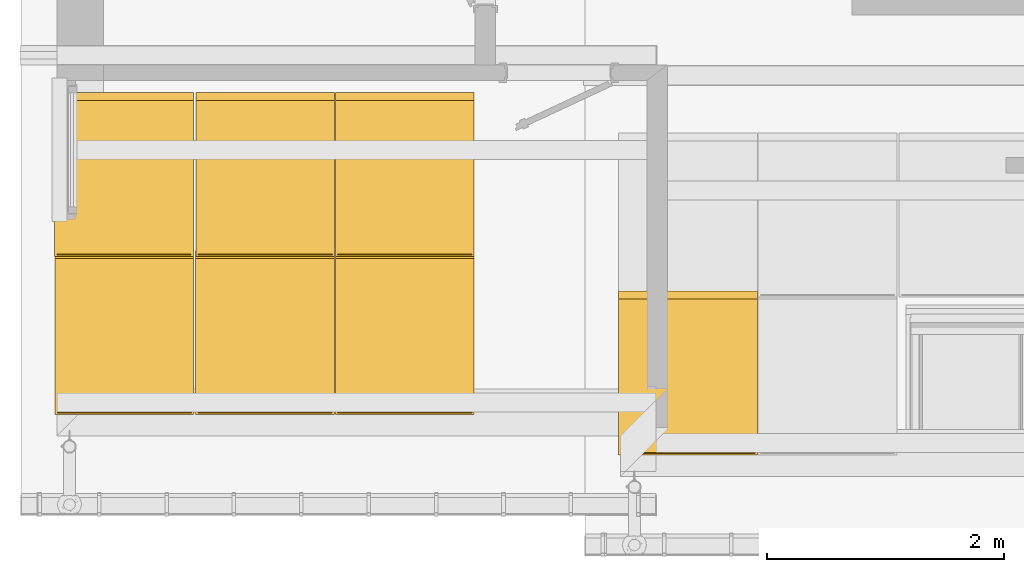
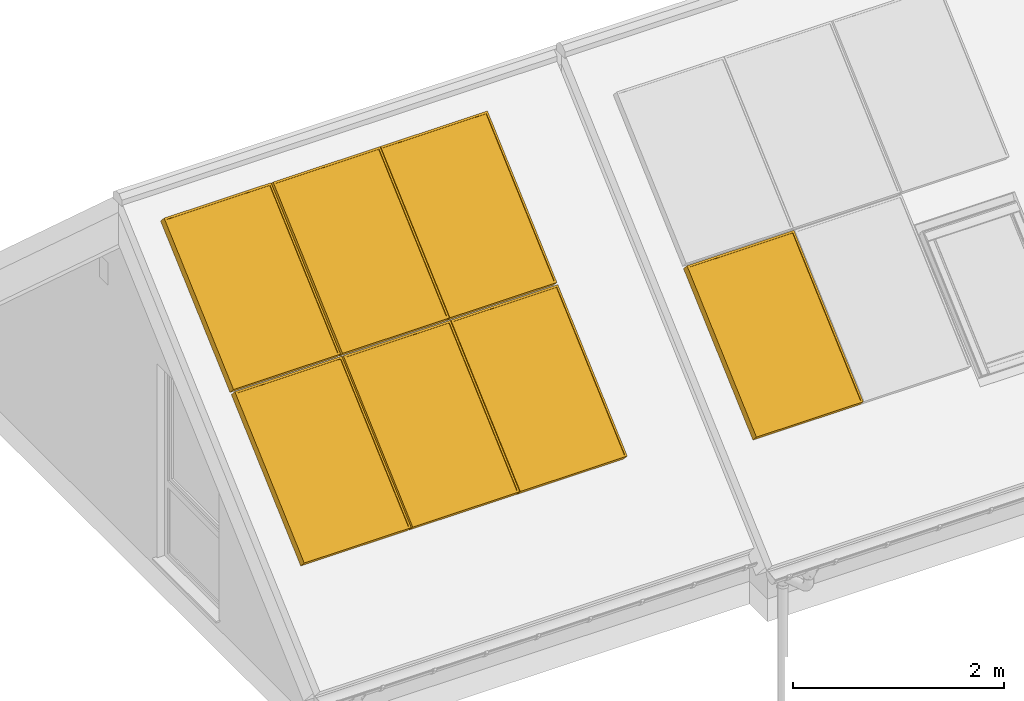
# One storey, part 13 of 43: 7 windows.
"""IFC2X3 building model written with IfcOpenShell, lengths in millimetres."""

import ifcopenshell
import ifcopenshell.guid

model = None  # the IFC model being written
_history = None  # IfcOwnerHistory: only IFC2X3 demands one
_inside = {}  # id of a spatial element -> (the spatial element, [elements in it])
_under = {}  # id of a project, library or spatial element -> (it, [spatial elements below it])
_declared = {}  # id of a project -> (the project, [libraries it declares])
_typed = {}  # id of a type object -> (the type object, [elements of that type])
_made_of = {}  # id of a material, layer set ... -> (it, [elements and type objects made of it])


def new_model(schema):
    """Start an empty IFC model of exactly this schema.

    Asked for "IFC4X3", IfcOpenShell would pick the latest addendum, in which some entities
    have other attributes; the version numbers below select the first issue.
    IFC2X3 requires an IfcOwnerHistory on every rooted entity: one is made here for all.
    """
    global model, _history
    if schema == "IFC4X3":
        model = ifcopenshell.file(schema_version=(4, 3, 0, 0))
    else:
        model = ifcopenshell.file(schema=schema)
    _inside.clear()
    _under.clear()
    _declared.clear()
    _typed.clear()
    _made_of.clear()
    _history = None
    if model.schema == "IFC2X3":
        org = make("IfcOrganization", Name="unknown")
        user = make(
            "IfcPersonAndOrganization",
            ThePerson=make("IfcPerson", FamilyName="unknown"),
            TheOrganization=org,
        )
        app = make(
            "IfcApplication",
            ApplicationDeveloper=org,
            Version="unknown",
            ApplicationFullName="unknown",
            ApplicationIdentifier="unknown",
        )
        _history = make(
            "IfcOwnerHistory",
            OwningUser=user,
            OwningApplication=app,
            ChangeAction="ADDED",
            CreationDate=0,
        )
    return model


def make(cls, **values):
    """One entity of the class cls with the attributes given. An attribute that is None is left unset."""
    return model.create_entity(
        cls, **{name: value for name, value in values.items() if value is not None}
    )


def rooted(cls, **values):
    """An entity with a GlobalId (a new one), such as an element, a storey or a relation."""
    return make(cls, GlobalId=ifcopenshell.guid.new(), OwnerHistory=_history, **values)


def si_unit(unit_type, name, prefix=None):
    """IfcSIUnit, for example si_unit("LENGTHUNIT", "METRE", prefix="MILLI")."""
    return make("IfcSIUnit", UnitType=unit_type, Prefix=prefix, Name=name)


def assignment(units):
    """IfcUnitAssignment: the units of a project."""
    return None if units is None else make("IfcUnitAssignment", Units=units)


def point(xyz):
    """IfcCartesianPoint."""
    return None if xyz is None else make("IfcCartesianPoint", Coordinates=xyz)


def direction(xyz):
    """IfcDirection."""
    return None if xyz is None else make("IfcDirection", DirectionRatios=xyz)


def frame(location, z_axis=None, x_axis=None):
    """IfcAxis2Placement3D, a coordinate frame: its origin and axes. An axis left out is left unset."""
    return make(
        "IfcAxis2Placement3D",
        Location=point(location),
        Axis=direction(z_axis),
        RefDirection=direction(x_axis),
    )


def origin_with_axes():
    """The frame at (0, 0, 0) with the z axis (0, 0, 1) and the x axis (1, 0, 0) written out."""
    return frame((0.0, 0.0, 0.0), z_axis=(0.0, 0.0, 1.0), x_axis=(1.0, 0.0, 0.0))


def place(relative_to, where):
    """IfcLocalPlacement: puts the frame where relative to a parent placement (None: the world)."""
    return make(
        "IfcLocalPlacement", PlacementRelTo=relative_to, RelativePlacement=where
    )


def context(
    kind, dimensions, precision=None, world=None, true_north=None, identifier=None
):
    """IfcGeometricRepresentationContext, for example the 3D "Model" context."""
    return make(
        "IfcGeometricRepresentationContext",
        ContextIdentifier=identifier,
        ContextType=kind,
        CoordinateSpaceDimension=dimensions,
        Precision=precision,
        WorldCoordinateSystem=world,
        TrueNorth=true_north,
    )


def project(units=None, contexts=None):
    """IfcProject with its units and contexts."""
    return rooted(
        "IfcProject",
        Name="project",
        RepresentationContexts=contexts,
        UnitsInContext=assignment(units),
    )


def spatial(cls, under=None, at=None, **own):
    """A site, building, storey or space (cls), placed at a placement, below another one or the project."""
    s = rooted(cls, ObjectPlacement=at, **own)
    if under is not None:
        _under.setdefault(under.id(), (under, []))[1].append(s)
    return s


def faces_of(points, faces, orient=None, outer=None):
    """IfcFace entities. A face is a list of loops; a loop is a list of indices into points, from 0.

    orient and outer hold one flag for each loop. By default every Orientation is true, the
    first loop of a face is its IfcFaceOuterBound and the others are IfcFaceBound.
    """
    made = []
    for i, loops in enumerate(faces):
        bounds = []
        for j, loop in enumerate(loops):
            is_outer = j == 0 if outer is None else outer[i][j]
            bounds.append(
                make(
                    "IfcFaceOuterBound" if is_outer else "IfcFaceBound",
                    Bound=make("IfcPolyLoop", Polygon=[points[k] for k in loop]),
                    Orientation=True if orient is None else orient[i][j],
                )
            )
        made.append(make("IfcFace", Bounds=bounds))
    return made


def faceted_brep(points, faces, orient=None, outer=None, voids=None):
    """IfcFacetedBrep: a solid bounded by flat faces; with voids (closed shells), ...WithVoids."""
    shared = [point(p) for p in points]
    hull = make("IfcClosedShell", CfsFaces=faces_of(shared, faces, orient, outer))
    if voids is None:
        return make("IfcFacetedBrep", Outer=hull)
    return make(
        "IfcFacetedBrepWithVoids",
        Outer=hull,
        Voids=[
            make(cls, CfsFaces=faces_of(shared, fs, o, b)) for cls, fs, o, b in voids
        ],
    )


def shape(context_of_items, identifier, shape_type, items):
    """IfcShapeRepresentation: the items that make up one representation, for example the "Body"."""
    return make(
        "IfcShapeRepresentation",
        ContextOfItems=context_of_items,
        RepresentationIdentifier=identifier,
        RepresentationType=shape_type,
        Items=items,
    )


def made_of(thing, what):
    """Note that an element or type object is made of a material, layer set ...; save() writes the relation."""
    if what is not None:
        _made_of.setdefault(what.id(), (what, []))[1].append(thing)
    return thing


def element(
    cls,
    number,
    at=None,
    inside=None,
    cuts=None,
    type_object=None,
    material=None,
    context=None,
    identifier="Body",
    shape_type=None,
    held_by="IfcProductDefinitionShape",
    body=None,
    shapes=None,
    **own,
):
    """One element of the class cls, such as IfcWall. Its Tag is "e" and its number.

    at: its placement. inside: the storey or other place that contains it. cuts: it is an
    opening in that element (IfcRelVoidsElement). A single representation is given by context,
    identifier, shape_type and body (its items); several are given by shapes. held_by: the class
    of the entity that holds the representations. save() writes the other relations.
    """
    e = rooted(cls, Tag="e%d" % number, ObjectPlacement=at, **own)
    if body is not None:
        shapes = [shape(context, identifier, shape_type, body)]
    if shapes is not None:
        e.Representation = make(held_by, Representations=shapes)
    if inside is not None:
        _inside.setdefault(inside.id(), (inside, []))[1].append(e)
    if cuts is not None:
        rooted(
            "IfcRelVoidsElement", RelatingBuildingElement=cuts, RelatedOpeningElement=e
        )
    if type_object is not None:
        _typed.setdefault(type_object.id(), (type_object, []))[1].append(e)
    return made_of(e, material)


def aggregate(whole, parts):
    """IfcRelAggregates: a whole, such as a stair, and the parts it consists of."""
    return rooted("IfcRelAggregates", RelatingObject=whole, RelatedObjects=parts)


def save(model, path):
    """Write the relations noted so far, then the file.

    IfcRelAggregates (storeys below a building ...), IfcRelContainedInSpatialStructure (elements
    in a storey), IfcRelDefinesByType, IfcRelAssociatesMaterial and IfcRelDeclares: one each for
    every whole, place, type object, material and project.
    """
    for whole, parts in _under.values():
        aggregate(whole, parts)
    for where, things in _inside.values():
        rooted(
            "IfcRelContainedInSpatialStructure",
            RelatedElements=things,
            RelatingStructure=where,
        )
    for kind, things in _typed.values():
        rooted("IfcRelDefinesByType", RelatedObjects=things, RelatingType=kind)
    for what, things in _made_of.values():
        rooted("IfcRelAssociatesMaterial", RelatedObjects=things, RelatingMaterial=what)
    for by, libraries in _declared.values():
        rooted("IfcRelDeclares", RelatingContext=by, RelatedDefinitions=libraries)
    model.write(path)


model = new_model("IFC2X3")

# Units and contexts
model_context = context("Model", 3, world=origin_with_axes())
ifc_project = project(units=[si_unit("LENGTHUNIT", "METRE", prefix="MILLI")], contexts=[model_context])

# Site, building, storey
site_placement = place(None, origin_with_axes())
site = spatial("IfcSite", under=ifc_project, at=site_placement, Name="Site", CompositionType="ELEMENT")
building_placement = place(site_placement, origin_with_axes())
building = spatial("IfcBuilding", under=site, at=building_placement, Name="?", CompositionType="ELEMENT")
storey_placement = place(building_placement, frame((0.0, 0.0, 5938.0), z_axis=(0.0, 0.0, 1.0), x_axis=(1.0, 0.0, 0.0)))
storey = spatial("IfcBuildingStorey", under=building, at=storey_placement, Name="Dachgeschoß", CompositionType="ELEMENT", Elevation=5938.0)

# Windows
placement_1 = place(None, origin_with_axes())
placement_2 = place(placement_1, frame((4750.0, -6756.0, 6767.55029296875), z_axis=(0.0, -0.669130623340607, 0.743144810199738), x_axis=(1.00000000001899, 0.0, 0.0)))
placement_3 = place(placement_2, frame((2.99999999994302, 2467.22719145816, 430.000228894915), z_axis=(0.0, -1.0000000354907, -1.28473057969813e-07), x_axis=(1.00000000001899, 0.0, 0.0)))
window_1_placement = place(placement_3, origin_with_axes())
element("IfcWindow", 1, at=window_1_placement, inside=storey, Name="SO", OverallHeight=1730.0, OverallWidth=1130.0, context=model_context, shape_type="Brep", body=[
    faceted_brep([(1150.0, 49.9998488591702, -65.0186203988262), (1130.0, 49.9996336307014, -45.0185635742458), (-9.09494701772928e-13, 49.9996336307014, -45.0185635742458), (-20.0000000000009, 49.9998488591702, -65.0186203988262), (1150.0, 149.999843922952, -65.0185841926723), (1150.0, 49.9998466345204, -65.0186222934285), (-20.0000000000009, 49.9998466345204, -65.0186222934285), (-20.0000000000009, 149.999843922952, -65.0185841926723), (1130.0, 149.999628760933, -45.0185277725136), (1150.0, 149.999843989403, -65.0185845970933), (-20.0000000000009, 149.999843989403, -65.0185845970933), (0.000488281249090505, 149.999628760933, -45.0185277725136), (1130.0, 49.9996336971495, -45.0185639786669), (1130.0, 149.999630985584, -45.0185258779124), (0.00048828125, 149.999630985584, -45.0185258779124), (0.0, 49.9996336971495, -45.0185639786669), (-20.0, 49.9998488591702, -65.0186203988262), (-4.23933705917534e-08, 49.9983102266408, -45.0185638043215), (6.0886119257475e-08, 50.0002110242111, 1684.97990325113), (-20.0000001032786, 50.0017936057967, 1704.97977768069), (-20.0, 149.999843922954, -65.0185841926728), (-20.0, 49.9998488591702, -65.0186203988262), (-20.0, 50.0031079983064, 1704.97976236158), (-20.0, 150.00310306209, 1704.97979856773), (0.000488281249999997, 149.999628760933, -45.0185277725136), (-19.9999999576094, 150.001167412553, -65.0185843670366), (-20.0000000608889, 150.003112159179, 1704.97981371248), (1.03276761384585e-07, 150.001529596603, 1684.97993928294), (0.0, 49.9996336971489, -45.0185639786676), (0.000244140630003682, 149.999628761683, -45.0185277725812), (-1.26419763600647e-10, 150.000197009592, 1684.97992431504), (-0.000244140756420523, 50.0002019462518, 1684.97988810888), (-19.9999999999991, 50.0031079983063, 1704.97976236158), (2.10002326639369e-09, 50.001735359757, 1684.97988763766), (1130.00000000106, 50.0002018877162, 1684.97988774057), (1150.00000000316, 50.0015202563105, 1704.97994442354), (-20.0, 150.003103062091, 1704.97979856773), (-20.0, 50.0031057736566, 1704.97976046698), (1150.00000000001, 49.9999845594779, 1704.97994263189), (1150.00000000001, 149.999981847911, 1704.97998073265), (0.0, 150.000197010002, 1684.97992431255), (-20.0000000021, 150.001569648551, 1704.97979903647), (1150.00000000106, 149.999981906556, 1704.97998109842), (1129.99999999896, 149.998663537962, 1684.97992441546), (0.0, 50.0002019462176, 1684.97988810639), (0.0, 150.000199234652, 1684.97992620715), (1130.0, 150.000199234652, 1684.97992620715), (1130.0, 50.0002019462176, 1684.97988810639), (1150.0, 49.9999867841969, 1704.97994452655), (1130.0, 49.9999825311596, 1684.97988801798), (1130.0, 49.999614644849, -45.0185717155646), (1150.0, 49.9996103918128, -65.0186282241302), (1150.0, 149.999981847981, 1704.9799807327), (1150.0, 49.9999867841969, 1704.97994452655), (1150.0, 49.9998488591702, -65.0186203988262), (1150.0, 149.999843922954, -65.0185841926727), (1130.0, 150.000197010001, 1684.97992431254), (1150.0, 150.000201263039, 1704.97998082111), (1150.0, 149.999824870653, -65.0185919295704), (1130.0, 149.999829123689, -45.018535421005), (1130.0, 50.0002019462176, 1684.97988810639), (1130.0, 150.000197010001, 1684.97992431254), (1130.0, 149.999628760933, -45.0185277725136), (1130.0, 49.9996336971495, -45.0185639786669), (0.0, 139.999418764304, -45.0184732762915), (0.0, 139.999932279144, 1684.98137326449), (1130.0, 139.999932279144, 1684.98137326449), (1130.0, 139.999418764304, -45.0184732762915), (0.0, 129.999208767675, -45.0184187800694), (1130.0, 129.999208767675, -45.0184187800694), (1130.0, 129.999722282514, 1684.98142776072), (0.0, 129.999722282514, 1684.98142776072), (0.0, 129.999208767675, -45.0184187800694), (0.0, 129.999722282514, 1684.98142776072), (1130.0, 129.999722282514, 1684.98142776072), (1130.0, 129.999208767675, -45.0184187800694)], [[[0, 1, 2, 3]], [[4, 5, 6, 7]], [[8, 9, 10, 11]], [[12, 13, 14, 15]], [[16, 17, 18, 19]], [[20, 21, 22, 23]], [[24, 25, 26, 27]], [[28, 29, 30, 31]], [[32, 33, 34, 35]], [[36, 37, 38, 39]], [[40, 41, 42, 43]], [[44, 45, 46, 47]], [[48, 49, 50, 51]], [[52, 53, 54, 55]], [[56, 57, 58, 59]], [[60, 61, 62, 63]], [[64, 65, 66, 67]], [[68, 69, 70, 71]], [[72, 73, 74, 75]]]),
])
placement_4 = place(None, origin_with_axes())
placement_5 = place(placement_4, frame((0.0, -6415.0, 6767.55029296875), z_axis=(0.0, -0.669130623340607, 0.743144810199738), x_axis=(1.00000000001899, 0.0, 0.0)))
placement_6 = place(placement_5, frame((0.0, 4260.59948074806, 429.999801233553), z_axis=(0.0, -0.9999999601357, 4.42948824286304e-08), x_axis=(1.00000000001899, 0.0, 0.0)))
window_2_placement = place(placement_6, origin_with_axes())
element("IfcWindow", 2, at=window_2_placement, inside=storey, Name="SO", OverallHeight=1730.0, OverallWidth=1130.0, context=model_context, shape_type="Brep", body=[
    faceted_brep([(1150.0, 50.0003848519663, -65.0253397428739), (1130.0, 50.0001661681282, -45.0252814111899), (0.0, 50.0001661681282, -45.0252814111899), (-20.0, 50.0003848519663, -65.0253397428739), (1150.0, 150.000379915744, -65.0253035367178), (1150.0, 50.0003826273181, -65.025341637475), (-19.9999999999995, 50.0003826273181, -65.025341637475), (-19.9999999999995, 150.000379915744, -65.0253035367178), (1130.0, 150.000161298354, -45.0252456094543), (1150.0, 150.000379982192, -65.0253039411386), (-20.0, 150.000379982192, -65.0253039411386), (0.0, 150.000161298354, -45.0252456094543), (1130.0, 50.000166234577, -45.0252818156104), (1130.0, 150.000163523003, -45.0252437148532), (0.0, 150.000163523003, -45.0252437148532), (0.0, 50.000166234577, -45.0252818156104), (-20.0, 50.0003848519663, -65.0253397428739), (-5.54380683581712e-08, 49.9986579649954, -45.0252818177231), (7.586750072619e-08, 49.9999686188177, 1684.97431664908), (-20.0000001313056, 50.0017258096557, 1704.97386568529), (-20.0, 150.000379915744, -65.0253035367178), (-20.0, 50.0003848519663, -65.0253397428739), (-20.0, 50.0033020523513, 1704.9738659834), (-20.0, 150.003297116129, 1704.97390218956), (4.68878264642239e-25, 150.000161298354, -45.0252456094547), (-19.9999999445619, 150.001888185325, -65.025303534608), (-20.0000000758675, 150.003229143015, 1704.97390189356), (1.31305568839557e-07, 150.001471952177, 1684.97435285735), (0.0, 50.000166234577, -45.0252818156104), (0.0, 150.000161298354, -45.0252456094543), (0.0, 150.000031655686, 1684.97435315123), (0.0, 50.0000365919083, 1684.97431694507), (-20.0, 50.0033020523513, 1704.9738659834), (2.61598387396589e-09, 50.0017482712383, 1684.97431621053), (1130.00000000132, 50.0000365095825, 1684.97431634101), (1150.00000000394, 50.0015297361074, 1704.97437474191), (-20.0, 150.003297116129, 1704.97390218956), (-20.0, 50.0032998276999, 1704.9738640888), (1150.00000000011, 49.9998157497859, 1704.97437297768), (1150.00000000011, 149.999813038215, 1704.97441107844), (-1.76182853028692e-18, 150.000031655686, 1684.97435315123), (-20.000000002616, 150.0015854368, 1704.9739029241), (1150.00000000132, 149.999813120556, 1704.97441168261), (1129.9999999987, 149.99831989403, 1684.97435328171), (0.0, 50.0000365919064, 1684.97431694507), (0.0, 150.000033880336, 1684.97435504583), (1130.0, 150.000033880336, 1684.97435504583), (1130.0, 50.0000365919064, 1684.97431694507), (1150.0, 49.999817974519, 1704.97437487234), (1130.0, 49.9998222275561, 1684.97431712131), (1130.0, 50.0001901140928, -45.0252663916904), (1150.0, 50.0001943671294, -65.0253241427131), (1150.0, 149.999813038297, 1704.97441107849), (1150.0, 49.999817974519, 1704.97437487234), (1150.0, 50.0003848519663, -65.0253397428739), (1150.0, 150.000379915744, -65.0253035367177), (1130.0, 150.000031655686, 1684.97435315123), (1150.0, 150.000027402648, 1704.97441090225), (1150.0, 150.000403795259, -65.0252881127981), (1130.0, 150.000399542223, -45.0252303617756), (1130.0, 50.0000365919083, 1684.97431694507), (1130.0, 150.000031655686, 1684.97435315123), (1130.0, 150.000161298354, -45.0252456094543), (1130.0, 50.000166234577, -45.0252818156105), (0.0, 139.999951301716, -45.0251911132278), (-1.77126973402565e-11, 139.999874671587, 1684.97440766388), (1130.00000000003, 140.000119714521, 1684.97477052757), (1130.00000000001, 140.000196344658, -45.0250096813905), (0.0, 129.999741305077, -45.0251366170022), (1130.00000000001, 129.99998634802, -45.0249551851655), (1130.00000000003, 129.999909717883, 1684.97482502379), (-1.77126979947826e-11, 129.999664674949, 1684.97446216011), (0.0, 129.999741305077, -45.0251366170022), (-1.77126984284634e-11, 129.999664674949, 1684.97446216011), (1130.00000000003, 129.999909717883, 1684.97482502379), (1130.00000000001, 129.99998634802, -45.0249551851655)], [[[0, 1, 2, 3]], [[4, 5, 6, 7]], [[8, 9, 10, 11]], [[12, 13, 14, 15]], [[16, 17, 18, 19]], [[20, 21, 22, 23]], [[24, 25, 26, 27]], [[28, 29, 30, 31]], [[32, 33, 34, 35]], [[36, 37, 38, 39]], [[40, 41, 42, 43]], [[44, 45, 46, 47]], [[48, 49, 50, 51]], [[52, 53, 54, 55]], [[56, 57, 58, 59]], [[60, 61, 62, 63]], [[64, 65, 66, 67]], [[68, 69, 70, 71]], [[72, 73, 74, 75]]]),
])
placement_7 = place(placement_5, frame((1191.99999997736, 4260.59948074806, 429.999801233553), z_axis=(0.0, -0.9999999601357, 4.42948824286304e-08), x_axis=(1.00000000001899, 0.0, 0.0)))
window_3_placement = place(placement_7, origin_with_axes())
element("IfcWindow", 3, at=window_3_placement, inside=storey, Name="SO", OverallHeight=1730.0, OverallWidth=1130.0, context=model_context, shape_type="Brep", body=[
    faceted_brep([(1150.0, 50.0003848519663, -65.0253397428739), (1130.0, 50.0001661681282, -45.0252814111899), (0.0, 50.0001661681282, -45.0252814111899), (-20.0, 50.0003848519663, -65.0253397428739), (1150.0, 150.000379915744, -65.0253035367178), (1150.0, 50.0003826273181, -65.025341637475), (-19.9999999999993, 50.0003826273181, -65.025341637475), (-19.9999999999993, 150.000379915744, -65.0253035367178), (1130.0, 150.000161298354, -45.0252456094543), (1150.0, 150.000379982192, -65.0253039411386), (-20.0, 150.000379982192, -65.0253039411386), (0.0, 150.000161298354, -45.0252456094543), (1130.0, 50.000166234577, -45.0252818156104), (1130.0, 150.000163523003, -45.0252437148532), (0.0, 150.000163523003, -45.0252437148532), (0.0, 50.000166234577, -45.0252818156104), (-20.0, 50.0003848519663, -65.0253397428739), (-5.54380257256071e-08, 49.9986579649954, -45.0252818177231), (7.58673159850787e-08, 49.9999686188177, 1684.97431664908), (-20.0000001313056, 50.0017258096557, 1704.97386568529), (-20.0, 150.000379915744, -65.0253035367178), (-20.0, 50.0003848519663, -65.0253397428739), (-20.0, 50.0033020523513, 1704.9738659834), (-20.0, 150.003297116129, 1704.97390218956), (-2.27373675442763e-13, 150.000161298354, -45.0252456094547), (-19.9999999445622, 150.001888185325, -65.025303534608), (-20.0000000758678, 150.003229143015, 1704.97390189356), (1.31304886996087e-07, 150.001471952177, 1684.97435285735), (0.0, 50.000166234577, -45.0252818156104), (0.0, 150.000161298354, -45.0252456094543), (0.0, 150.000031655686, 1684.97435315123), (0.0, 50.0000365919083, 1684.97431694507), (-20.0, 50.0033020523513, 1704.9738659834), (2.61593413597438e-09, 50.0017482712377, 1684.97431621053), (1130.00000000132, 50.0000365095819, 1684.97431634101), (1150.00000000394, 50.0015297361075, 1704.97437474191), (-20.0000000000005, 150.003297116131, 1704.97390218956), (-20.0000000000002, 50.0032998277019, 1704.9738640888), (1150.00000000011, 49.9998157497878, 1704.97437297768), (1150.00000000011, 149.999813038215, 1704.97441107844), (0.0, 150.000031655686, 1684.97435315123), (-20.0000000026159, 150.0015854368, 1704.9739029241), (1150.00000000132, 149.999813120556, 1704.97441168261), (1129.9999999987, 149.99831989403, 1684.97435328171), (-2.27373675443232e-13, 50.0000365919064, 1684.97431694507), (-2.27373675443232e-13, 150.000033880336, 1684.97435504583), (1130.0, 150.000033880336, 1684.97435504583), (1130.0, 50.0000365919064, 1684.97431694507), (1150.0, 49.999817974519, 1704.97437487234), (1130.0, 49.9998222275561, 1684.97431712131), (1130.0, 50.0001901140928, -45.0252663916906), (1150.0, 50.0001943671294, -65.0253241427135), (1150.0, 149.999813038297, 1704.97441107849), (1150.0, 49.999817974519, 1704.97437487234), (1150.0, 50.0003848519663, -65.0253397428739), (1150.0, 150.000379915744, -65.0253035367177), (1130.0, 150.000031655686, 1684.97435315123), (1150.0, 150.000027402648, 1704.97441090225), (1150.0, 150.000403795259, -65.0252881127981), (1130.0, 150.000399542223, -45.0252303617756), (1130.0, 50.0000365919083, 1684.97431694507), (1130.0, 150.000031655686, 1684.97435315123), (1130.0, 150.000161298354, -45.0252456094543), (1130.0, 50.000166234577, -45.0252818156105), (2.27373675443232e-13, 139.999951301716, -45.0251911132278), (-1.75077731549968e-11, 139.999874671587, 1684.97440766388), (1130.00000000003, 140.000119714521, 1684.97477052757), (1130.00000000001, 140.000196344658, -45.0250096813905), (-2.27373675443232e-13, 129.999741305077, -45.0251366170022), (1130.00000000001, 129.99998634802, -45.0249551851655), (1130.00000000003, 129.999909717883, 1684.97482502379), (-1.77351466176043e-11, 129.999664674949, 1684.97446216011), (0.0, 129.999741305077, -45.0251366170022), (-1.79625202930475e-11, 129.999664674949, 1684.97446216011), (1130.00000000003, 129.999909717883, 1684.97482502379), (1130.00000000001, 129.99998634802, -45.0249551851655)], [[[0, 1, 2, 3]], [[4, 5, 6, 7]], [[8, 9, 10, 11]], [[12, 13, 14, 15]], [[16, 17, 18, 19]], [[20, 21, 22, 23]], [[24, 25, 26, 27]], [[28, 29, 30, 31]], [[32, 33, 34, 35]], [[36, 37, 38, 39]], [[40, 41, 42, 43]], [[44, 45, 46, 47]], [[48, 49, 50, 51]], [[52, 53, 54, 55]], [[56, 57, 58, 59]], [[60, 61, 62, 63]], [[64, 65, 66, 67]], [[68, 69, 70, 71]], [[72, 73, 74, 75]]]),
])
placement_8 = place(placement_5, frame((2366.99999995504, 4260.59948074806, 429.999801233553), z_axis=(0.0, -0.9999999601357, 4.42948824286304e-08), x_axis=(1.00000000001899, 0.0, 0.0)))
window_4_placement = place(placement_8, origin_with_axes())
element("IfcWindow", 4, at=window_4_placement, inside=storey, Name="SO", OverallHeight=1730.0, OverallWidth=1130.0, context=model_context, shape_type="Brep", body=[
    faceted_brep([(1150.0, 50.0003848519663, -65.0253397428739), (1130.0, 50.0001661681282, -45.0252814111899), (-4.54747350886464e-13, 50.0001661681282, -45.0252814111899), (-20.0009765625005, 50.0003848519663, -65.0253397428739), (1150.0, 150.000379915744, -65.0253035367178), (1150.0, 50.0003826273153, -65.0253416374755), (-20.0009765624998, 50.0003826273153, -65.0253416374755), (-20.0009765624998, 150.000379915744, -65.0253035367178), (1130.0, 150.000161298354, -45.0252456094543), (1150.0, 150.000379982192, -65.0253039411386), (-20.0009765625, 150.000379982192, -65.0253039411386), (0.0, 150.000161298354, -45.0252456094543), (1130.0, 50.000166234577, -45.0252818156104), (1130.0, 150.000163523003, -45.0252437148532), (4.54747350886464e-13, 150.000163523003, -45.0252437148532), (4.54747350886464e-13, 50.000166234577, -45.0252818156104), (-20.0009765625, 50.000384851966, -65.0253397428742), (-3.16649675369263e-08, 49.9990174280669, -45.0252819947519), (4.75533816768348e-08, 50.0000368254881, 1684.97430120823), (-20.0000000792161, 50.0014277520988, 1704.97450351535), (-20.0009765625, 150.000379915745, -65.025303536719), (-20.0009765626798, 50.0003848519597, -65.0253397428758), (-20.0000000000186, 50.0025763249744, 1704.97451943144), (-20.0000000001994, 150.003297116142, 1704.97390218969), (-1.73472346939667e-18, 150.000161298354, -45.0252456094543), (-20.0009765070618, 150.00188822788, -65.0253035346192), (-20.0000000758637, 150.003229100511, 1704.97390189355), (1.31306023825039e-07, 150.001471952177, 1684.97435285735), (0.0, 50.000166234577, -45.0252818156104), (0.0, 150.000161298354, -45.0252456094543), (0.0, 150.000031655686, 1684.97435315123), (0.0, 50.0000365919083, 1684.97431694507), (-19.9999999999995, 50.0025763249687, 1704.9745194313), (1.63982250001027e-09, 50.0013917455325, 1684.97431673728), (1130.00000000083, 50.0000365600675, 1684.97431681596), (1150.00000000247, 50.0011731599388, 1704.97437479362), (-19.9999999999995, 150.003297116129, 1704.97390218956), (-19.9999999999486, 50.0025737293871, 1704.97419326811), (1150.00000000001, 49.9998153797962, 1704.97437543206), (1150.00000000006, 149.999813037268, 1704.97408435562), (0.0, 150.000031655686, 1684.97435315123), (-20.0000000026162, 150.0015854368, 1704.9739029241), (1150.00000000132, 149.999813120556, 1704.97441168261), (1129.9999999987, 149.99831989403, 1684.97435328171), (-4.54747350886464e-13, 50.0000365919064, 1684.97431694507), (-4.54747350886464e-13, 150.000033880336, 1684.97435504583), (1130.0, 150.000033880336, 1684.97435504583), (1130.0, 50.0000365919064, 1684.97431694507), (1150.0, 49.999817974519, 1704.97437487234), (1130.0, 49.9998222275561, 1684.97431712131), (1130.0, 50.0001901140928, -45.0252663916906), (1150.0, 50.0001943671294, -65.0253241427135), (1150.0, 149.999813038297, 1704.97441107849), (1150.0, 49.999817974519, 1704.97437487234), (1150.0, 50.0003848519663, -65.0253397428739), (1150.0, 150.000379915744, -65.0253035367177), (1130.0, 150.000031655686, 1684.97435315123), (1150.0, 150.000027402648, 1704.97441090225), (1150.0, 150.000403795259, -65.0252881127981), (1130.0, 150.000399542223, -45.0252303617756), (1130.0, 50.0000365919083, 1684.97431694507), (1130.0, 150.000031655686, 1684.97435315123), (1130.0, 150.000161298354, -45.0252456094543), (1130.0, 50.000166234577, -45.0252818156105), (-3.38813178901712e-21, 139.999951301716, -45.0251911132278), (-1.81898941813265e-11, 139.999874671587, 1684.97440766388), (1130.00000000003, 140.000119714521, 1684.97477052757), (1130.00000000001, 140.000196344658, -45.0250096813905), (0.0, 129.999741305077, -45.0251366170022), (1130.00000000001, 129.99998634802, -45.0249551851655), (1130.00000000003, 129.999909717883, 1684.97482502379), (-1.77351466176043e-11, 129.999664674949, 1684.97446216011), (0.0, 129.999741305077, -45.0251366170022), (-1.81898939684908e-11, 129.999664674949, 1684.97446216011), (1130.00000000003, 129.999909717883, 1684.97482502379), (1130.00000000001, 129.99998634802, -45.0249551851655)], [[[0, 1, 2, 3]], [[4, 5, 6, 7]], [[8, 9, 10, 11]], [[12, 13, 14, 15]], [[16, 17, 18, 19]], [[20, 21, 22, 23]], [[24, 25, 26, 27]], [[28, 29, 30, 31]], [[32, 33, 34, 35]], [[36, 37, 38, 39]], [[40, 41, 42, 43]], [[44, 45, 46, 47]], [[48, 49, 50, 51]], [[52, 53, 54, 55]], [[56, 57, 58, 59]], [[60, 61, 62, 63]], [[64, 65, 66, 67]], [[68, 69, 70, 71]], [[72, 73, 74, 75]]]),
])
placement_9 = place(placement_5, frame((2366.99999995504, 2467.22755432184, 429.999902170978), z_axis=(0.0, -0.99999995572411, -3.98832931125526e-08), x_axis=(1.00000000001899, 0.0, 0.0)))
window_5_placement = place(placement_9, origin_with_axes())
element("IfcWindow", 5, at=window_5_placement, inside=storey, Name="SO", OverallHeight=1730.0, OverallWidth=1130.0, context=model_context, shape_type="Brep", body=[
    faceted_brep([(1150.0, 50.0001813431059, -65.0182627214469), (1130.0, 49.9999643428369, -45.0182043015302), (2.27373675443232e-13, 49.9999643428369, -45.0182043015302), (-19.9999999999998, 50.0001813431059, -65.0182627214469), (1150.0, 150.000176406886, -65.0182265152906), (1150.0, 50.0001791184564, -65.0182646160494), (-19.9999999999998, 50.0001791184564, -65.0182646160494), (-19.9999999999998, 150.000176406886, -65.0182265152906), (1130.0, 149.999959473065, -45.0181684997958), (1150.0, 150.000176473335, -65.0182269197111), (-20.0000000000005, 150.000176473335, -65.0182269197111), (-4.54747350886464e-13, 149.999959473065, -45.0181684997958), (1130.0, 49.9999644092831, -45.0182047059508), (1130.0, 149.999961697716, -45.0181666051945), (-4.54747350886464e-13, 149.999961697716, -45.0181666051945), (-4.54747350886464e-13, 49.9999644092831, -45.0182047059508), (-19.9999999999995, 50.0001813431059, -65.0182627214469), (-4.27162341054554e-08, 49.9986366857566, -45.0182039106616), (6.08865775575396e-08, 50.0000163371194, 1684.98078159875), (-20.0000001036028, 50.0015928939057, 1704.98065824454), (-20.0, 150.000176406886, -65.0182265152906), (-20.0, 50.0001813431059, -65.0182627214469), (-20.0, 50.0029208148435, 1704.98058794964), (-20.0, 150.002915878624, 1704.9806241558), (4.54747350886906e-13, 149.999959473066, -45.018168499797), (-19.9999999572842, 150.001504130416, -65.0182273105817), (-20.0000000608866, 150.002915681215, 1704.98069365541), (1.03602360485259e-07, 150.001339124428, 1684.98081700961), (0.0, 49.999964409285, -45.0182047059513), (0.0, 149.999959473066, -45.0181684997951), (0.0, 150.000011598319, 1684.98074830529), (0.0, 50.0000165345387, 1684.98071209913), (-20.0, 50.0029208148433, 1704.98058794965), (2.09911377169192e-09, 50.0015499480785, 1684.9807116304), (1130.00000000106, 50.0000164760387, 1684.98071173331), (1150.00000000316, 50.0013330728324, 1704.98077001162), (-20.0, 150.002915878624, 1704.9806241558), (-20.0, 50.0029185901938, 1704.98058605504), (1150.00000000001, 49.9997973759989, 1704.98076821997), (1150.00000000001, 149.999794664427, 1704.98080632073), (-4.54747350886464e-13, 150.000011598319, 1684.98074830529), (-20.0000000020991, 150.001382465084, 1704.98062462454), (1150.00000000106, 149.999794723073, 1704.98080668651), (1129.99999999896, 149.998478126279, 1684.9807484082), (0.0, 50.0000165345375, 1684.98071209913), (0.0, 150.000013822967, 1684.98075019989), (1130.0, 150.000013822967, 1684.98075019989), (1130.0, 50.0000165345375, 1684.98071209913), (1150.0, 49.9997996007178, 1704.98077011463), (1130.0, 49.9998021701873, 1684.98071227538), (1130.0, 50.0000244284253, -45.0181892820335), (1150.0, 50.0000269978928, -65.0182471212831), (1150.0, 149.999794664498, 1704.98080632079), (1150.0, 49.9997996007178, 1704.98077011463), (1150.0, 50.0001813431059, -65.0182627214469), (1150.0, 150.000176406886, -65.0182265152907), (1130.0, 150.000011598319, 1684.98074830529), (1150.0, 150.00000902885, 1704.98080614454), (1150.0, 150.000236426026, -65.0182110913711), (1130.0, 150.000233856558, -45.0181532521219), (1130.0, 50.0000165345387, 1684.98071209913), (1130.0, 150.000011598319, 1684.98074830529), (1130.0, 149.999959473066, -45.0181684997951), (1130.0, 49.999964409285, -45.0182047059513), (0.0, 139.999749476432, -45.0181140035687), (0.0, 139.99938158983, 1684.98179623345), (1130.0, 139.99938158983, 1684.98179623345), (1130.0, 139.999749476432, -45.0181140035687), (0.0, 129.999539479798, -45.0180595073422), (1130.0, 129.999539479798, -45.0180595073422), (1130.0, 129.999171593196, 1684.98185072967), (0.0, 129.999171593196, 1684.98185072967), (0.0, 129.999539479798, -45.0180595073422), (0.0, 129.999171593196, 1684.98185072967), (1130.0, 129.999171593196, 1684.98185072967), (1130.0, 129.999539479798, -45.0180595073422)], [[[0, 1, 2, 3]], [[4, 5, 6, 7]], [[8, 9, 10, 11]], [[12, 13, 14, 15]], [[16, 17, 18, 19]], [[20, 21, 22, 23]], [[24, 25, 26, 27]], [[28, 29, 30, 31]], [[32, 33, 34, 35]], [[36, 37, 38, 39]], [[40, 41, 42, 43]], [[44, 45, 46, 47]], [[48, 49, 50, 51]], [[52, 53, 54, 55]], [[56, 57, 58, 59]], [[60, 61, 62, 63]], [[64, 65, 66, 67]], [[68, 69, 70, 71]], [[72, 73, 74, 75]]]),
])
placement_10 = place(placement_5, frame((1190.99999997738, 2467.22755432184, 429.999902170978), z_axis=(0.0, -0.999999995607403, -8.4178175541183e-08), x_axis=(1.00000000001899, 0.0, 0.0)))
window_6_placement = place(placement_10, origin_with_axes())
element("IfcWindow", 6, at=window_6_placement, inside=storey, Name="SO", OverallHeight=1730.0, OverallWidth=1130.0, context=model_context, shape_type="Brep", body=[
    faceted_brep([(1150.0, 50.0001784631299, -65.0182601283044), (1130.0, 49.999962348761, -45.018202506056), (0.0, 49.999962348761, -45.018202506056), (-20.0, 50.0001784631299, -65.0182601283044), (1150.0, 150.000173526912, -65.0182239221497), (1150.0, 50.0001762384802, -65.0182620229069), (-19.9999999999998, 50.0001762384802, -65.0182620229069), (-19.9999999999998, 150.000173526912, -65.0182239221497), (1130.0, 149.999957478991, -45.018166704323), (1150.0, 150.000173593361, -65.0182243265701), (-20.0000000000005, 150.000173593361, -65.0182243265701), (-4.54747350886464e-13, 149.999957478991, -45.018166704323), (1130.0, 49.9999624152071, -45.0182029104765), (1130.0, 149.999959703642, -45.0181648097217), (-4.54747350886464e-13, 149.999959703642, -45.0181648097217), (-4.54747350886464e-13, 49.9999624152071, -45.0182029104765), (-20.0, 50.0001784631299, -65.0182601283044), (-4.27148734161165e-08, 49.9986346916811, -45.0182021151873), (6.08874870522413e-08, 50.00009097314, 1684.98071439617), (-20.0000001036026, 50.0016684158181, 1704.9805902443), (-20.0, 150.000173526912, -65.0182239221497), (-20.0, 50.0001784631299, -65.0182601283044), (-20.0, 50.0029963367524, 1704.9805199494), (-20.0, 150.002991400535, 1704.98055615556), (-2.27373675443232e-13, 149.999957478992, -45.0181667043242), (-19.9999999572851, 150.001501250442, -65.0182247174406), (-20.0000000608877, 150.002991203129, 1704.98062565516), (1.03602360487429e-07, 150.00141376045, 1684.98074980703), (0.0, 49.9999624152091, -45.0182029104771), (0.0, 149.999957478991, -45.0181667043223), (0.0, 150.000086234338, 1684.98068110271), (0.0, 50.0000911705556, 1684.98064489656), (-19.9999999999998, 50.0029963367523, 1704.9805199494), (2.0995685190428e-09, 50.001624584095, 1684.98064442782), (1130.00000000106, 50.0000911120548, 1684.98064453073), (1150.00000000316, 50.0014085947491, 1704.98070201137), (-20.0, 150.002991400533, 1704.98055615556), (-20.0, 50.0029941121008, 1704.9805180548), (1150.00000000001, 49.9998728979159, 1704.98070021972), (1150.00000000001, 149.999870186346, 1704.98073832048), (0.0, 150.000086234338, 1684.98068110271), (-20.0000000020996, 150.001457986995, 1704.98055662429), (1150.00000000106, 149.999870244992, 1704.98073868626), (1129.99999999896, 149.998552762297, 1684.98068120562), (0.0, 50.0000911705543, 1684.98064489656), (0.0, 150.000088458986, 1684.98068299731), (1130.0, 150.000088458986, 1684.98068299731), (1130.0, 50.0000911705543, 1684.98064489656), (1150.0, 49.9998751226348, 1704.98070211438), (1130.0, 49.9998768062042, 1684.9806450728), (1130.0, 50.0000224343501, -45.0181874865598), (1150.0, 50.0000241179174, -65.0182445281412), (1150.0, 149.999870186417, 1704.98073832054), (1150.0, 49.9998751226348, 1704.98070211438), (1150.0, 50.0001784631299, -65.0182601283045), (1150.0, 150.000173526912, -65.0182239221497), (1130.0, 150.000086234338, 1684.98068110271), (1150.0, 150.000084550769, 1704.98073814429), (1150.0, 150.000233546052, -65.0182084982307), (1130.0, 150.000231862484, -45.0181514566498), (1130.0, 50.0000911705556, 1684.98064489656), (1130.0, 150.000086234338, 1684.98068110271), (1130.0, 149.999957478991, -45.0181667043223), (1130.0, 49.9999624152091, -45.0182029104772), (0.0, 139.99974748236, -45.018112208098), (0.0, 139.999456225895, 1684.98172903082), (1130.0, 139.999456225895, 1684.98172903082), (1130.0, 139.99974748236, -45.018112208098), (0.0, 129.999537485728, -45.0180577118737), (1130.0, 129.999537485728, -45.0180577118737), (1130.0, 129.999246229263, 1684.98178352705), (0.0, 129.999246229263, 1684.98178352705), (0.0, 129.999537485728, -45.0180577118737), (0.0, 129.999246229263, 1684.98178352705), (1130.0, 129.999246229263, 1684.98178352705), (1130.0, 129.999537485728, -45.0180577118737)], [[[0, 1, 2, 3]], [[4, 5, 6, 7]], [[8, 9, 10, 11]], [[12, 13, 14, 15]], [[16, 17, 18, 19]], [[20, 21, 22, 23]], [[24, 25, 26, 27]], [[28, 29, 30, 31]], [[32, 33, 34, 35]], [[36, 37, 38, 39]], [[40, 41, 42, 43]], [[44, 45, 46, 47]], [[48, 49, 50, 51]], [[52, 53, 54, 55]], [[56, 57, 58, 59]], [[60, 61, 62, 63]], [[64, 65, 66, 67]], [[68, 69, 70, 71]], [[72, 73, 74, 75]]]),
])
placement_11 = place(placement_5, frame((3.99999999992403, 2467.22755432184, 429.999902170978), z_axis=(0.0, -0.99999995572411, -3.98832931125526e-08), x_axis=(1.00000000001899, 0.0, 0.0)))
window_7_placement = place(placement_11, origin_with_axes())
element("IfcWindow", 7, at=window_7_placement, inside=storey, Name="SO", OverallHeight=1730.0, OverallWidth=1130.0, context=model_context, shape_type="Brep", body=[
    faceted_brep([(1150.0, 50.0001813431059, -65.0182627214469), (1130.0, 49.9999643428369, -45.0182043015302), (0.0, 49.9999643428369, -45.0182043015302), (-20.0, 50.0001813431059, -65.0182627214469), (1150.0, 150.000176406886, -65.0182265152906), (1150.0, 50.0001791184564, -65.0182646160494), (-19.9999999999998, 50.0001791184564, -65.0182646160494), (-19.9999999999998, 150.000176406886, -65.0182265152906), (1130.0, 149.999959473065, -45.0181684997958), (1150.0, 150.000176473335, -65.0182269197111), (-20.0000000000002, 150.000176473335, -65.0182269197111), (-2.27373675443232e-13, 149.999959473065, -45.0181684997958), (1130.0, 49.9999644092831, -45.0182047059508), (1130.0, 149.999961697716, -45.0181666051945), (-2.27373675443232e-13, 149.999961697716, -45.0181666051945), (-2.27373675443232e-13, 49.9999644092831, -45.0182047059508), (-20.0, 50.0001813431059, -65.0182627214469), (-4.27151967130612e-08, 49.9986366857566, -45.0182039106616), (6.08873627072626e-08, 50.0000163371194, 1684.98078159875), (-20.0000001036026, 50.0015928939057, 1704.98065824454), (-20.0, 150.000176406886, -65.0182265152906), (-20.0, 50.0001813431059, -65.0182627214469), (-20.0, 50.0029208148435, 1704.98058794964), (-20.0, 150.002915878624, 1704.9806241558), (-1.73472347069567e-18, 149.999959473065, -45.0181684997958), (-19.9999999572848, 150.001504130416, -65.018227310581), (-20.0000000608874, 150.002915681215, 1704.98069365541), (1.03602564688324e-07, 150.001339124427, 1684.98081700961), (0.0, 49.999964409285, -45.0182047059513), (0.0, 149.999959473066, -45.0181684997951), (0.0, 150.000011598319, 1684.98074830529), (0.0, 50.0000165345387, 1684.98071209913), (-20.0, 50.0029208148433, 1704.98058794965), (2.09941575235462e-09, 50.0015499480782, 1684.9807116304), (1130.00000000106, 50.000016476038, 1684.98071173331), (1150.00000000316, 50.001333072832, 1704.98077001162), (-20.0, 150.002915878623, 1704.9806241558), (-20.0, 50.0029185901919, 1704.98058605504), (1150.00000000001, 49.999797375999, 1704.98076821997), (1150.00000000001, 149.999794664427, 1704.98080632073), (0.0, 150.000011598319, 1684.98074830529), (-20.0000000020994, 150.001382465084, 1704.98062462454), (1150.00000000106, 149.999794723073, 1704.98080668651), (1129.99999999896, 149.998478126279, 1684.9807484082), (0.0, 50.0000165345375, 1684.98071209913), (0.0, 150.000013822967, 1684.98075019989), (1130.0, 150.000013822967, 1684.98075019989), (1130.0, 50.0000165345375, 1684.98071209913), (1150.0, 49.9997996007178, 1704.98077011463), (1130.0, 49.9998021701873, 1684.98071227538), (1130.0, 50.0000244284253, -45.0181892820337), (1150.0, 50.0000269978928, -65.0182471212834), (1150.0, 149.999794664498, 1704.98080632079), (1150.0, 49.9997996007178, 1704.98077011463), (1150.0, 50.0001813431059, -65.0182627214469), (1150.0, 150.000176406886, -65.0182265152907), (1130.0, 150.000011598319, 1684.98074830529), (1150.0, 150.00000902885, 1704.98080614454), (1150.0, 150.000236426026, -65.0182110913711), (1130.0, 150.000233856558, -45.0181532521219), (1130.0, 50.0000165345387, 1684.98071209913), (1130.0, 150.000011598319, 1684.98074830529), (1130.0, 149.999959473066, -45.0181684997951), (1130.0, 49.999964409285, -45.0182047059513), (0.0, 139.999749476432, -45.0181140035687), (0.0, 139.99938158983, 1684.98179623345), (1130.0, 139.99938158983, 1684.98179623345), (1130.0, 139.999749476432, -45.0181140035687), (0.0, 129.999539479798, -45.0180595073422), (1130.0, 129.999539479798, -45.0180595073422), (1130.0, 129.999171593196, 1684.98185072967), (0.0, 129.999171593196, 1684.98185072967), (0.0, 129.999539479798, -45.0180595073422), (0.0, 129.999171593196, 1684.98185072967), (1130.0, 129.999171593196, 1684.98185072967), (1130.0, 129.999539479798, -45.0180595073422)], [[[0, 1, 2, 3]], [[4, 5, 6, 7]], [[8, 9, 10, 11]], [[12, 13, 14, 15]], [[16, 17, 18, 19]], [[20, 21, 22, 23]], [[24, 25, 26, 27]], [[28, 29, 30, 31]], [[32, 33, 34, 35]], [[36, 37, 38, 39]], [[40, 41, 42, 43]], [[44, 45, 46, 47]], [[48, 49, 50, 51]], [[52, 53, 54, 55]], [[56, 57, 58, 59]], [[60, 61, 62, 63]], [[64, 65, 66, 67]], [[68, 69, 70, 71]], [[72, 73, 74, 75]]]),
])

save(model, "model.ifc")
